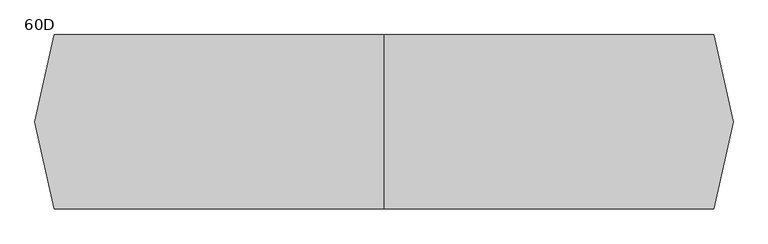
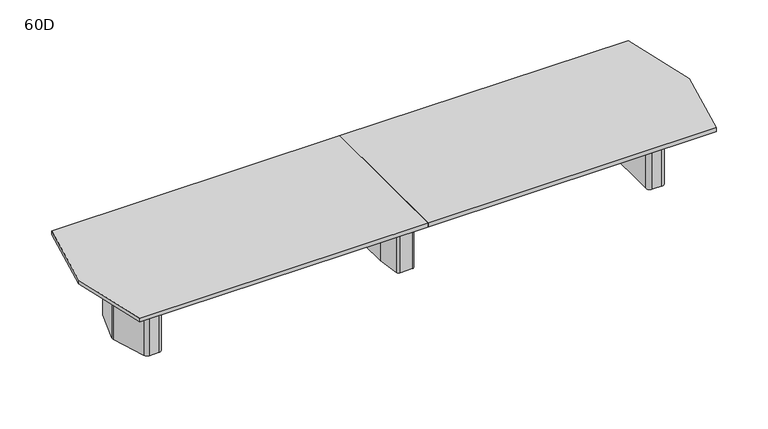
"""IFC4 building model written with IfcOpenShell, lengths in millimetres: furniture geometry, Coalesse_AM_Table_Conference_ETable2_Faceted_20ft_ThreeBase : 60D."""

from ifc_helpers import new_model, si_unit, point, frame, frame_2d, origin, origin_with_axes, place, context, project, spatial, polyline, circle_curve, trimmed, segment, composite_curve, outline, extrude, source, transform, mapped, element, save
from ifc_brep_helpers import plane_surface, cylinder_surface, revolved_surface, advanced_brep


def furniture_60d_94ecbd19(model_context):
    return source(origin(), model_context, "Body", "SolidModel", [
        advanced_brep(
        [(61.0357815, 381.0, 698.5), (-61.0357815, 381.0, 698.5), (-86.1885994, 359.1349332, 698.5), (-117.2278179, 138.2753661, 698.5), (-117.475, 134.740433, 698.5), (-117.475, -134.7404196, 698.5), (-117.2278463, -138.2751502, 698.5), (-86.1904395, -359.1347306, 698.5), (-61.0375932, -381.0, 698.5), (61.0375932, -381.0, 698.5), (86.1904395, -359.1347306, 698.5), (117.2278463, -138.2751502, 698.5), (117.475, -134.7404196, 698.5), (117.475, 134.740433, 698.5), (117.2278179, 138.2753661, 698.5), (86.1885994, 359.1349332, 698.5), (25.4, 314.325, 698.5), (50.8, 288.925, 698.5), (50.8, -288.925, 698.5), (25.4, -314.325, 698.5), (-25.4, -314.325, 698.5), (-50.8, -288.925, 698.5), (-50.8, 288.925, 698.5), (-25.4, 314.325, 698.5), (61.0357815, 381.0, 3.175), (86.1885994, 359.1349332, 3.175), (117.2278179, 138.2753661, 3.175), (117.475, 134.740433, 3.175), (117.475, -134.7404196, 3.175), (117.2278463, -138.2751502, 3.175), (86.1904395, -359.1347306, 3.175), (61.0375932, -381.0, 3.175), (-61.0375932, -381.0, 3.175), (-86.1904395, -359.1347306, 3.175), (-117.2278463, -138.2751502, 3.175), (-117.475, -134.7404196, 3.175), (-117.475, 134.740433, 3.175), (-117.2278179, 138.2753661, 3.175), (-86.1885994, 359.1349332, 3.175), (-61.0357815, 381.0, 3.175), (25.4, 327.025, 3.175), (-25.4, 327.025, 3.175), (-63.5, 288.925, 3.175), (-63.5, -288.925, 3.175), (-25.4, -327.025, 3.175), (25.4, -327.025, 3.175), (63.5, -288.925, 3.175), (63.5, 288.925, 3.175), (25.4, 314.325, 3.175), (50.8, 288.925, 3.175), (50.8, -288.925, 3.175), (25.4, -314.325, 3.175), (-25.4, -314.325, 3.175), (-50.8, -288.925, 3.175), (-50.8, 288.925, 3.175), (-25.4, 314.325, 3.175), (25.4, 327.025, 0.0), (63.5, 288.925, 0.0), (63.5, -288.925, 0.0), (25.4, -327.025, 0.0), (-25.4, -327.025, 0.0), (-63.5, -288.925, 0.0), (-63.5, 288.925, 0.0), (-25.4, 327.025, 0.0)],
        [
            (0, 1),
            (1, 2, circle_curve(frame((-61.0357815, 355.6, 698.5), z_axis=(0.0, 0.0, 1.0), x_axis=(1.0, 0.0, 0.0)), 25.4)),
            (2, 3),
            (3, 4, circle_curve(frame((-92.075, 134.740433, 698.5), z_axis=(0.0, 0.0, 1.0), x_axis=(1.0, 0.0, 0.0)), 25.4)),
            (4, 5),
            (5, 6, circle_curve(frame((-92.075, -134.7404196, 698.5), z_axis=(0.0, 0.0, 1.0), x_axis=(1.0, 0.0, 0.0)), 25.4)),
            (6, 7),
            (7, 8, circle_curve(frame((-61.0375932, -355.6, 698.5), z_axis=(0.0, 0.0, 1.0), x_axis=(1.0, 0.0, 0.0)), 25.4)),
            (8, 9),
            (9, 10, circle_curve(frame((61.0375932, -355.6, 698.5), z_axis=(0.0, 0.0, 1.0), x_axis=(1.0, 0.0, 0.0)), 25.4)),
            (10, 11),
            (11, 12, circle_curve(frame((92.075, -134.7404196, 698.5), z_axis=(0.0, 0.0, 1.0), x_axis=(1.0, 0.0, 0.0)), 25.4)),
            (12, 13),
            (13, 14, circle_curve(frame((92.075, 134.740433, 698.5), z_axis=(0.0, 0.0, 1.0), x_axis=(1.0, 0.0, 0.0)), 25.4)),
            (14, 15),
            (15, 0, circle_curve(frame((61.0357815, 355.6, 698.5), z_axis=(0.0, 0.0, 1.0), x_axis=(1.0, 0.0, 0.0)), 25.4)),
            (16, 17, circle_curve(frame((25.4, 288.925, 698.5), z_axis=(0.0, 0.0, -1.0), x_axis=(1.0, 0.0, 0.0)), 25.4)),
            (17, 18),
            (18, 19, circle_curve(frame((25.4, -288.925, 698.5), z_axis=(0.0, 0.0, -1.0), x_axis=(1.0, 0.0, 0.0)), 25.4)),
            (19, 20),
            (20, 21, circle_curve(frame((-25.4, -288.925, 698.5), z_axis=(0.0, 0.0, -1.0), x_axis=(1.0, 0.0, 0.0)), 25.4)),
            (21, 22),
            (22, 23, circle_curve(frame((-25.4, 288.925, 698.5), z_axis=(0.0, 0.0, -1.0), x_axis=(1.0, 0.0, 0.0)), 25.4)),
            (23, 16),
            (24, 25, circle_curve(frame((61.0357815, 355.6, 3.175), z_axis=(0.0, 0.0, -1.0), x_axis=(1.0, 0.0, 0.0)), 25.4)),
            (25, 26),
            (26, 27, circle_curve(frame((92.075, 134.740433, 3.175), z_axis=(0.0, 0.0, -1.0), x_axis=(1.0, 0.0, 0.0)), 25.4)),
            (27, 28),
            (28, 29, circle_curve(frame((92.075, -134.7404196, 3.175), z_axis=(0.0, 0.0, -1.0), x_axis=(1.0, 0.0, 0.0)), 25.4)),
            (29, 30),
            (30, 31, circle_curve(frame((61.0375932, -355.6, 3.175), z_axis=(0.0, 0.0, -1.0), x_axis=(1.0, 0.0, 0.0)), 25.4)),
            (31, 32),
            (32, 33, circle_curve(frame((-61.0375932, -355.6, 3.175), z_axis=(0.0, 0.0, -1.0), x_axis=(1.0, 0.0, 0.0)), 25.4)),
            (33, 34),
            (34, 35, circle_curve(frame((-92.075, -134.7404196, 3.175), z_axis=(0.0, 0.0, -1.0), x_axis=(1.0, 0.0, 0.0)), 25.4)),
            (35, 36),
            (36, 37, circle_curve(frame((-92.075, 134.740433, 3.175), z_axis=(0.0, 0.0, -1.0), x_axis=(1.0, 0.0, 0.0)), 25.4)),
            (37, 38),
            (38, 39, circle_curve(frame((-61.0357815, 355.6, 3.175), z_axis=(0.0, 0.0, -1.0), x_axis=(1.0, 0.0, 0.0)), 25.4)),
            (39, 24),
            (40, 41),
            (41, 42, circle_curve(frame((-25.4, 288.925, 3.175), z_axis=(0.0, 0.0, 1.0), x_axis=(1.0, 0.0, 0.0)), 38.1)),
            (42, 43),
            (43, 44, circle_curve(frame((-25.4, -288.925, 3.175), z_axis=(0.0, 0.0, 1.0), x_axis=(1.0, 0.0, 0.0)), 38.1)),
            (44, 45),
            (45, 46, circle_curve(frame((25.4, -288.925, 3.175), z_axis=(0.0, 0.0, 1.0), x_axis=(1.0, 0.0, 0.0)), 38.1)),
            (46, 47),
            (47, 40, circle_curve(frame((25.4, 288.925, 3.175), z_axis=(0.0, 0.0, 1.0), x_axis=(1.0, 0.0, 0.0)), 38.1)),
            (0, 24),
            (39, 1),
            (38, 2),
            (37, 3),
            (36, 4),
            (35, 5),
            (34, 6),
            (33, 7),
            (32, 8),
            (31, 9),
            (30, 10),
            (29, 11),
            (28, 12),
            (27, 13),
            (26, 14),
            (25, 15),
            (16, 48),
            (48, 49, circle_curve(frame((25.4, 288.925, 3.175), z_axis=(0.0, 0.0, -1.0), x_axis=(1.0, 0.0, 0.0)), 25.4)),
            (49, 17),
            (49, 50),
            (50, 18),
            (50, 51, circle_curve(frame((25.4, -288.925, 3.175), z_axis=(0.0, 0.0, -1.0), x_axis=(1.0, 0.0, 0.0)), 25.4)),
            (51, 19),
            (51, 52),
            (52, 20),
            (52, 53, circle_curve(frame((-25.4, -288.925, 3.175), z_axis=(0.0, 0.0, -1.0), x_axis=(1.0, 0.0, 0.0)), 25.4)),
            (53, 21),
            (53, 54),
            (54, 22),
            (54, 55, circle_curve(frame((-25.4, 288.925, 3.175), z_axis=(0.0, 0.0, -1.0), x_axis=(1.0, 0.0, 0.0)), 25.4)),
            (55, 23),
            (55, 48),
            (56, 57, circle_curve(frame((25.4, 288.925, 0.0), z_axis=(0.0, 0.0, -1.0), x_axis=(1.0, 0.0, 0.0)), 38.1)),
            (57, 58),
            (58, 59, circle_curve(frame((25.4, -288.925, 0.0), z_axis=(0.0, 0.0, -1.0), x_axis=(1.0, 0.0, 0.0)), 38.1)),
            (59, 60),
            (60, 61, circle_curve(frame((-25.4, -288.925, 0.0), z_axis=(0.0, 0.0, -1.0), x_axis=(1.0, 0.0, 0.0)), 38.1)),
            (61, 62),
            (62, 63, circle_curve(frame((-25.4, 288.925, 0.0), z_axis=(0.0, 0.0, -1.0), x_axis=(1.0, 0.0, 0.0)), 38.1)),
            (63, 56),
            (63, 41),
            (40, 56),
            (62, 42),
            (61, 43),
            (60, 44),
            (59, 45),
            (58, 46),
            (57, 47),
        ],
        [
            plane_surface(frame((-1524.0, 381.0, 698.5), z_axis=(0.0, 0.0, 1.0), x_axis=(-1.0, 0.0, 0.0))),
            plane_surface(frame((-1524.0, 381.0, 3.175), z_axis=(0.0, 0.0, -1.0), x_axis=(1.0, 0.0, 0.0))),
            plane_surface(frame((61.0357815, 381.0, 698.5), z_axis=(0.0, 1.0, 0.0), x_axis=(0.0, 0.0, -1.0))),
            cylinder_surface(frame((-61.0357815, 355.6, 3.175), z_axis=(0.0, 0.0, 1.0), x_axis=(1.0, 0.0, 0.0)), 25.4),
            plane_surface(frame((-86.1885994, 359.1349332, 698.5), z_axis=(-0.9902684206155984, 0.13917059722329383, 0.0), x_axis=(0.0, 0.0, -1.0))),
            cylinder_surface(frame((-92.075, 134.740433, 3.175), z_axis=(0.0, 0.0, 1.0), x_axis=(1.0, 0.0, 0.0)), 25.4),
            plane_surface(frame((-117.475, 134.740433, 698.5), z_axis=(-1.0, 0.0, 0.0), x_axis=(0.0, 0.0, -1.0))),
            cylinder_surface(frame((-92.075, -134.7404196, 3.175), z_axis=(0.0, 0.0, 1.0), x_axis=(1.0, 0.0, 0.0)), 25.4),
            plane_surface(frame((-117.2278463, -138.2751502, 698.5), z_axis=(-0.9902695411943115, -0.1391626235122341, 0.0), x_axis=(0.0, 0.0, -1.0))),
            cylinder_surface(frame((-61.0375932, -355.6, 3.175), z_axis=(0.0, 0.0, 1.0), x_axis=(1.0, 0.0, 0.0)), 25.4),
            plane_surface(frame((-61.0375932, -381.0, 698.5), z_axis=(0.0, -1.0, 0.0), x_axis=(0.0, 0.0, -1.0))),
            cylinder_surface(frame((61.0375932, -355.6, 3.175), z_axis=(0.0, 0.0, 1.0), x_axis=(1.0, 0.0, 0.0)), 25.4),
            plane_surface(frame((86.1904395, -359.1347306, 698.5), z_axis=(0.9902695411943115, -0.1391626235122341, 0.0), x_axis=(0.0, 0.0, -1.0))),
            cylinder_surface(frame((92.075, -134.7404196, 3.175), z_axis=(0.0, 0.0, 1.0), x_axis=(1.0, 0.0, 0.0)), 25.4),
            plane_surface(frame((117.475, -134.7404196, 698.5), z_axis=(1.0, 0.0, 0.0), x_axis=(0.0, 0.0, -1.0))),
            cylinder_surface(frame((92.075, 134.740433, 3.175), z_axis=(0.0, 0.0, 1.0), x_axis=(1.0, 0.0, 0.0)), 25.4),
            plane_surface(frame((117.2278179, 138.2753661, 698.5), z_axis=(0.9902684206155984, 0.13917059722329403, 0.0), x_axis=(0.0, 0.0, -1.0))),
            cylinder_surface(frame((61.0357815, 355.6, 3.175), z_axis=(0.0, 0.0, 1.0), x_axis=(1.0, 0.0, 0.0)), 25.4),
            revolved_surface(polyline([(50.8, 288.925, 3.175), (50.8, 288.925, 698.5)]), (25.4, 288.925, 0.0), (0.0, 0.0, -1.0)),
            plane_surface(frame((50.8, 288.925, 698.5), z_axis=(-1.0, 0.0, 0.0), x_axis=(0.0, 0.0, -1.0))),
            revolved_surface(polyline([(50.8, -288.925, 3.175), (50.8, -288.925, 698.5)]), (25.4, -288.925, 0.0), (0.0, 0.0, -1.0)),
            plane_surface(frame((25.4, -314.325, 698.5), z_axis=(0.0, 1.0, 0.0), x_axis=(0.0, 0.0, -1.0))),
            revolved_surface(polyline([(0.0, -288.925, 3.175), (0.0, -288.925, 698.5)]), (-25.4, -288.925, 0.0), (0.0, 0.0, -1.0)),
            plane_surface(frame((-50.8, -288.925, 698.5), z_axis=(1.0, 0.0, 0.0), x_axis=(0.0, 0.0, -1.0))),
            revolved_surface(polyline([(0.0, 288.925, 3.175), (0.0, 288.925, 698.5)]), (-25.4, 288.925, 0.0), (0.0, 0.0, -1.0)),
            plane_surface(frame((-25.4, 314.325, 698.5), z_axis=(0.0, -1.0, 0.0), x_axis=(0.0, 0.0, -1.0))),
            plane_surface(frame((-50.8, 327.025, 3.175), z_axis=(0.0, 0.0, 1.0), x_axis=(-1.0, 0.0, 0.0))),
            plane_surface(frame((-50.8, 327.025, 0.0), z_axis=(0.0, 0.0, -1.0), x_axis=(1.0, 0.0, 0.0))),
            plane_surface(frame((25.4, 327.025, 3.175), z_axis=(0.0, 1.0, 0.0), x_axis=(0.0, 0.0, -1.0))),
            cylinder_surface(frame((-25.4, 288.925, 0.0), z_axis=(0.0, 0.0, 1.0), x_axis=(1.0, 0.0, 0.0)), 38.1),
            plane_surface(frame((-63.5, 288.925, 3.175), z_axis=(-1.0, 0.0, 0.0), x_axis=(0.0, 0.0, -1.0))),
            cylinder_surface(frame((-25.4, -288.925, 0.0), z_axis=(0.0, 0.0, 1.0), x_axis=(1.0, 0.0, 0.0)), 38.1),
            plane_surface(frame((-25.4, -327.025, 3.175), z_axis=(0.0, -1.0, 0.0), x_axis=(0.0, 0.0, -1.0))),
            cylinder_surface(frame((25.4, -288.925, 0.0), z_axis=(0.0, 0.0, 1.0), x_axis=(1.0, 0.0, 0.0)), 38.1),
            plane_surface(frame((63.5, -288.925, 3.175), z_axis=(1.0, 0.0, 0.0), x_axis=(0.0, 0.0, -1.0))),
            cylinder_surface(frame((25.4, 288.925, 0.0), z_axis=(0.0, 0.0, 1.0), x_axis=(1.0, 0.0, 0.0)), 38.1),
        ],
        [
            (0, [[1, 2, 3, 4, 5, 6, 7, 8, 9, 10, 11, 12, 13, 14, 15, 16], [17, 18, 19, 20, 21, 22, 23, 24]]),
            (1, [[25, 26, 27, 28, 29, 30, 31, 32, 33, 34, 35, 36, 37, 38, 39, 40], [41, 42, 43, 44, 45, 46, 47, 48]]),
            (2, [[-1, 49, -40, 50]]),
            (3, [[-2, -50, -39, 51]]),
            (4, [[-3, -51, -38, 52]]),
            (5, [[-4, -52, -37, 53]]),
            (6, [[-5, -53, -36, 54]]),
            (7, [[-6, -54, -35, 55]]),
            (8, [[-7, -55, -34, 56]]),
            (9, [[-8, -56, -33, 57]]),
            (10, [[-9, -57, -32, 58]]),
            (11, [[-10, -58, -31, 59]]),
            (12, [[-11, -59, -30, 60]]),
            (13, [[-12, -60, -29, 61]]),
            (14, [[-13, -61, -28, 62]]),
            (15, [[-14, -62, -27, 63]]),
            (16, [[-15, -63, -26, 64]]),
            (17, [[-16, -64, -25, -49]]),
            (18, [[-17, 65, 66, 67]]),
            (19, [[-18, -67, 68, 69]]),
            (20, [[-19, -69, 70, 71]]),
            (21, [[-20, -71, 72, 73]]),
            (22, [[-21, -73, 74, 75]]),
            (23, [[-22, -75, 76, 77]]),
            (24, [[-23, -77, 78, 79]]),
            (25, [[-24, -79, 80, -65]]),
            (26, [[-66, -80, -78, -76, -74, -72, -70, -68]]),
            (27, [[81, 82, 83, 84, 85, 86, 87, 88]]),
            (28, [[-88, 89, -41, 90]]),
            (29, [[-87, 91, -42, -89]]),
            (30, [[-86, 92, -43, -91]]),
            (31, [[-85, 93, -44, -92]]),
            (32, [[-84, 94, -45, -93]]),
            (33, [[-83, 95, -46, -94]]),
            (34, [[-82, 96, -47, -95]]),
            (35, [[-81, -90, -48, -96]]),
        ],
    ),
        extrude(outline(composite_curve([segment(polyline([(2646.3625, 101.7236478), (2646.3625, -97.2761514)]), True, "CONTINUOUS"), segment(trimmed(circle_curve(frame_2d((2608.2625, -97.2761514)), 38.1), [point((2646.3625, -97.2761514))], [point((2644.5991129, -108.7330515))], False, "CARTESIAN"), True, "CONTINUOUS"), segment(polyline([(2644.5991129, -108.7330515), (2586.1745591, -294.0319001)]), True, "CONTINUOUS"), segment(trimmed(circle_curve(frame_2d((2549.8379462, -282.575)), 38.1), [point((2586.1745591, -294.0319001))], [point((2549.8379462, -320.675))], False, "CARTESIAN"), True, "CONTINUOUS"), segment(polyline([(2549.8379462, -320.675), (2482.85, -320.675)]), True, "CONTINUOUS"), segment(trimmed(circle_curve(frame_2d((2482.85, -282.575)), 38.1), [point((2482.85, -320.675))], [point((2444.75, -282.575))], False, "CARTESIAN"), True, "CONTINUOUS"), segment(polyline([(2444.75, -282.575), (2444.75, 282.575)]), True, "CONTINUOUS"), segment(trimmed(circle_curve(frame_2d((2482.85, 282.575)), 38.1), [point((2444.75, 282.575))], [point((2482.85, 320.675))], False, "CARTESIAN"), True, "CONTINUOUS"), segment(polyline([(2482.85, 320.675), (2553.5873998, 320.675)]), True, "CONTINUOUS"), segment(trimmed(circle_curve(frame_2d((2553.5873998, 282.575)), 38.1), [point((2553.5873998, 320.675))], [point((2590.0572049, 293.6005756))], False, "CARTESIAN"), True, "CONTINUOUS"), segment(polyline([(2590.0572049, 293.6005756), (2644.7323051, 112.7492234)]), True, "CONTINUOUS"), segment(trimmed(circle_curve(frame_2d((2608.2625, 101.7236478)), 38.1), [point((2644.7323051, 112.7492234))], [point((2646.3625, 101.7236478))], False, "CARTESIAN"), True, "CONTINUOUS")], self_intersect=False)), origin_with_axes(), (0.0, 0.0, 1.0), 3.175),
        extrude(outline(composite_curve([segment(polyline([(2466.975, 381.0), (2555.1221663, 381.0)]), True, "CONTINUOUS"), segment(trimmed(circle_curve(frame_2d((2555.1221663, 339.725)), 41.275), [point((2555.1221663, 381.0))], [point((2594.4868303, 352.1366418))], False, "CARTESIAN"), True, "CONTINUOUS"), segment(polyline([(2594.4868303, 352.1366418), (2701.6018053, 12.4116418)]), True, "CONTINUOUS"), segment(trimmed(circle_curve(frame_2d((2662.2371413, 0.0)), 41.275), [point((2701.6018053, 12.4116418))], [point((2701.6018053, -12.4116418))], False, "CARTESIAN"), True, "CONTINUOUS"), segment(polyline([(2701.6018053, -12.4116418), (2594.4868303, -352.1366418)]), True, "CONTINUOUS"), segment(trimmed(circle_curve(frame_2d((2555.1221663, -339.725)), 41.275), [point((2594.4868303, -352.1366418))], [point((2555.1221663, -381.0))], False, "CARTESIAN"), True, "CONTINUOUS"), segment(polyline([(2555.1221663, -381.0), (2460.625, -381.0)]), True, "CONTINUOUS"), segment(trimmed(circle_curve(frame_2d((2460.625, -339.725)), 41.275), [point((2460.625, -381.0))], [point((2419.35, -339.725))], False, "CARTESIAN"), True, "CONTINUOUS"), segment(polyline([(2419.35, -339.725), (2419.35, 333.375)]), True, "CONTINUOUS"), segment(trimmed(circle_curve(frame_2d((2466.975, 333.375)), 47.625), [point((2419.35, 333.375))], [point((2466.975, 381.0))], False, "CARTESIAN"), True, "CONTINUOUS")], self_intersect=False), holes=[composite_curve([segment(trimmed(circle_curve(frame_2d((2482.85, -282.575)), 25.4), [point((2457.45, -282.575))], [point((2482.85, -307.975))], True, "CARTESIAN"), True, "CONTINUOUS"), segment(polyline([(2482.85, -307.975), (2549.8379462, -307.975)]), True, "CONTINUOUS"), segment(trimmed(circle_curve(frame_2d((2549.8379462, -282.575)), 25.4), [point((2549.8379462, -307.975))], [point((2574.0623548, -290.2129334))], True, "CARTESIAN"), True, "CONTINUOUS"), segment(polyline([(2574.0623548, -290.2129334), (2632.4869086, -104.9140848)]), True, "CONTINUOUS"), segment(trimmed(circle_curve(frame_2d((2608.2625, -97.2761514)), 25.4), [point((2632.4869086, -104.9140848))], [point((2633.6625, -97.2761514))], True, "CARTESIAN"), True, "CONTINUOUS"), segment(polyline([(2633.6625, -97.2761514), (2633.6625, 101.7236478)]), True, "CONTINUOUS"), segment(trimmed(circle_curve(frame_2d((2608.2625, 101.7236478)), 25.4), [point((2633.6625, 101.7236478))], [point((2632.5757034, 109.0740316))], True, "CARTESIAN"), True, "CONTINUOUS"), segment(polyline([(2632.5757034, 109.0740316), (2577.9006032, 289.9253837)]), True, "CONTINUOUS"), segment(trimmed(circle_curve(frame_2d((2553.5873998, 282.575)), 25.4), [point((2577.9006032, 289.9253837))], [point((2553.5873998, 307.975))], True, "CARTESIAN"), True, "CONTINUOUS"), segment(polyline([(2553.5873998, 307.975), (2482.85, 307.975)]), True, "CONTINUOUS"), segment(trimmed(circle_curve(frame_2d((2482.85, 282.575)), 25.4), [point((2482.85, 307.975))], [point((2457.45, 282.575))], True, "CARTESIAN"), True, "CONTINUOUS"), segment(polyline([(2457.45, 282.575), (2457.45, -282.575)]), True, "CONTINUOUS")], self_intersect=False)]), frame((0.0, 0.0, 3.175), z_axis=(0.0, 0.0, 1.0), x_axis=(1.0, 0.0, 0.0)), (0.0, 0.0, 1.0), 695.325),
        extrude(outline(composite_curve([segment(trimmed(circle_curve(frame_2d((-2619.375, 101.7236478)), 38.1), [point((-2657.475, 101.7236478))], [point((-2655.8448051, 112.7492234))], False, "CARTESIAN"), True, "CONTINUOUS"), segment(polyline([(-2655.8448051, 112.7492234), (-2601.1697049, 293.6005756)]), True, "CONTINUOUS"), segment(trimmed(circle_curve(frame_2d((-2564.6998998, 282.575)), 38.1), [point((-2601.1697049, 293.6005756))], [point((-2564.6998998, 320.675))], False, "CARTESIAN"), True, "CONTINUOUS"), segment(polyline([(-2564.6998998, 320.675), (-2493.9625, 320.675)]), True, "CONTINUOUS"), segment(trimmed(circle_curve(frame_2d((-2493.9625, 282.575)), 38.1), [point((-2493.9625, 320.675))], [point((-2455.8625, 282.575))], False, "CARTESIAN"), True, "CONTINUOUS"), segment(polyline([(-2455.8625, 282.575), (-2455.8625, -282.575)]), True, "CONTINUOUS"), segment(trimmed(circle_curve(frame_2d((-2493.9625, -282.575)), 38.1), [point((-2455.8625, -282.575))], [point((-2493.9625, -320.675))], False, "CARTESIAN"), True, "CONTINUOUS"), segment(polyline([(-2493.9625, -320.675), (-2560.9504462, -320.675)]), True, "CONTINUOUS"), segment(trimmed(circle_curve(frame_2d((-2560.9504462, -282.575)), 38.1), [point((-2560.9504462, -320.675))], [point((-2597.2870591, -294.0319001))], False, "CARTESIAN"), True, "CONTINUOUS"), segment(polyline([(-2597.2870591, -294.0319001), (-2655.7116129, -108.7330515)]), True, "CONTINUOUS"), segment(trimmed(circle_curve(frame_2d((-2619.375, -97.2761514)), 38.1), [point((-2655.7116129, -108.7330515))], [point((-2657.475, -97.2761514))], False, "CARTESIAN"), True, "CONTINUOUS"), segment(polyline([(-2657.475, -97.2761514), (-2657.475, 101.7236478)]), True, "CONTINUOUS")], self_intersect=False)), origin_with_axes(), (0.0, 0.0, 1.0), 3.175),
        extrude(outline(composite_curve([segment(trimmed(circle_curve(frame_2d((-2478.0875, 333.375)), 47.625), [point((-2478.0875, 381.0))], [point((-2430.4625, 333.375))], False, "CARTESIAN"), True, "CONTINUOUS"), segment(polyline([(-2430.4625, 333.375), (-2430.4625, -339.725)]), True, "CONTINUOUS"), segment(trimmed(circle_curve(frame_2d((-2471.7375, -339.725)), 41.275), [point((-2430.4625, -339.725))], [point((-2471.7375, -381.0))], False, "CARTESIAN"), True, "CONTINUOUS"), segment(polyline([(-2471.7375, -381.0), (-2566.2346663, -381.0)]), True, "CONTINUOUS"), segment(trimmed(circle_curve(frame_2d((-2566.2346663, -339.725)), 41.275), [point((-2566.2346663, -381.0))], [point((-2605.5993303, -352.1366418))], False, "CARTESIAN"), True, "CONTINUOUS"), segment(polyline([(-2605.5993303, -352.1366418), (-2712.7143053, -12.4116418)]), True, "CONTINUOUS"), segment(trimmed(circle_curve(frame_2d((-2673.3496413, 0.0)), 41.275), [point((-2712.7143053, -12.4116418))], [point((-2712.7143053, 12.4116418))], False, "CARTESIAN"), True, "CONTINUOUS"), segment(polyline([(-2712.7143053, 12.4116418), (-2605.5993303, 352.1366418)]), True, "CONTINUOUS"), segment(trimmed(circle_curve(frame_2d((-2566.2346663, 339.725)), 41.275), [point((-2605.5993303, 352.1366418))], [point((-2566.2346663, 381.0))], False, "CARTESIAN"), True, "CONTINUOUS"), segment(polyline([(-2566.2346663, 381.0), (-2478.0875, 381.0)]), True, "CONTINUOUS")], self_intersect=False), holes=[composite_curve([segment(polyline([(-2468.5625, -282.575), (-2468.5625, 282.575)]), True, "CONTINUOUS"), segment(trimmed(circle_curve(frame_2d((-2493.9625, 282.575)), 25.4), [point((-2468.5625, 282.575))], [point((-2493.9625, 307.975))], True, "CARTESIAN"), True, "CONTINUOUS"), segment(polyline([(-2493.9625, 307.975), (-2564.6998998, 307.975)]), True, "CONTINUOUS"), segment(trimmed(circle_curve(frame_2d((-2564.6998998, 282.575)), 25.4), [point((-2564.6998998, 307.975))], [point((-2589.0131032, 289.9253837))], True, "CARTESIAN"), True, "CONTINUOUS"), segment(polyline([(-2589.0131032, 289.9253837), (-2643.6882034, 109.0740316)]), True, "CONTINUOUS"), segment(trimmed(circle_curve(frame_2d((-2619.375, 101.7236478)), 25.4), [point((-2643.6882034, 109.0740316))], [point((-2644.775, 101.7236478))], True, "CARTESIAN"), True, "CONTINUOUS"), segment(polyline([(-2644.775, 101.7236478), (-2644.775, -97.2761514)]), True, "CONTINUOUS"), segment(trimmed(circle_curve(frame_2d((-2619.375, -97.2761514)), 25.4), [point((-2644.775, -97.2761514))], [point((-2643.5994086, -104.9140848))], True, "CARTESIAN"), True, "CONTINUOUS"), segment(polyline([(-2643.5994086, -104.9140848), (-2585.1748548, -290.2129334)]), True, "CONTINUOUS"), segment(trimmed(circle_curve(frame_2d((-2560.9504462, -282.575)), 25.4), [point((-2585.1748548, -290.2129334))], [point((-2560.9504462, -307.975))], True, "CARTESIAN"), True, "CONTINUOUS"), segment(polyline([(-2560.9504462, -307.975), (-2493.9625, -307.975)]), True, "CONTINUOUS"), segment(trimmed(circle_curve(frame_2d((-2493.9625, -282.575)), 25.4), [point((-2493.9625, -307.975))], [point((-2468.5625, -282.575))], True, "CARTESIAN"), True, "CONTINUOUS")], self_intersect=False)]), frame((0.0, 0.0, 3.175), z_axis=(0.0, 0.0, 1.0), x_axis=(1.0, 0.0, 0.0)), (0.0, 0.0, 1.0), 695.325),
        extrude(outline(polyline([(2879.0677242, 762.0), (3048.0, 0.0), (2879.0677242, -762.0), (0.0, -762.0), (0.0, 762.0), (2879.0677242, 762.0)])), frame((0.0, 0.0, 698.5), z_axis=(0.0, 0.0, 1.0), x_axis=(1.0, 0.0, 0.0)), (0.0, 0.0, 1.0), 38.1),
        extrude(outline(polyline([(0.0, -762.0), (-2879.0677242, -762.0), (-3048.0, 0.0), (-2879.0677242, 762.0), (0.0, 762.0), (0.0, -762.0)])), frame((0.0, 0.0, 698.5), z_axis=(0.0, 0.0, 1.0), x_axis=(1.0, 0.0, 0.0)), (0.0, 0.0, 1.0), 38.1),
        extrude(outline(polyline([(96.8375, 698.5), (103.1875, 698.5), (103.1875, 476.25), (-103.1875, 476.25), (-103.1875, 698.5), (-96.8375, 698.5), (-96.8375, 482.6), (96.8375, 482.6), (96.8375, 698.5)])), frame((-2430.4625, 0.0, 0.0), z_axis=(1.0, 0.0, 0.0), x_axis=(0.0, 1.0, 0.0)), (0.0, 0.0, 1.0), 4849.8125),
    ])


if __name__ == "__main__":
    model = new_model("IFC4")
    model_context = context("Model", 3, world=origin())
    ifc_project = project(units=[si_unit("LENGTHUNIT", "METRE", prefix="MILLI")], contexts=[model_context])
    site = spatial("IfcSite", under=ifc_project)
    building = spatial("IfcBuilding", under=site)
    placement = place(None, origin())
    furniture_60d_shape = furniture_60d_94ecbd19(model_context)
    element("IfcFurniture", 1, ObjectType="Coalesse_AM_Table_Conference_ETable2_Faceted_20ft_ThreeBase : 60D", at=placement, inside=building, context=model_context, shape_type="MappedRepresentation", body=[
        mapped(furniture_60d_shape, transform((0.0, 0.0, 0.0), x_axis=(1.0, 0.0, 0.0), y_axis=(0.0, 1.0, 0.0), z_axis=(0.0, 0.0, 1.0))),
    ])
    save(model, "model.ifc")
